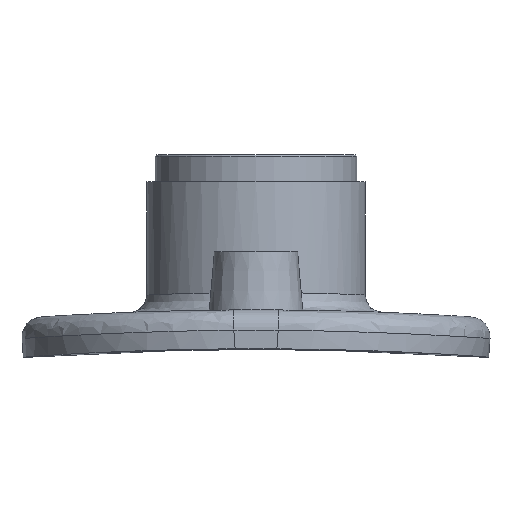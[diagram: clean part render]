
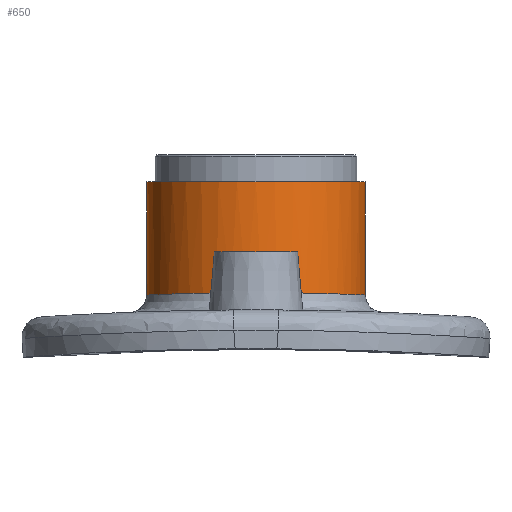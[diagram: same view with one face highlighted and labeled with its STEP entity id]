
A CAD part, top view. The second image highlights one B-rep face of the part: STEP entity #650.
In plain terms, the highlighted cylindrical face has radius 19.689 mm (diameter 39.378 mm), a full revolution.
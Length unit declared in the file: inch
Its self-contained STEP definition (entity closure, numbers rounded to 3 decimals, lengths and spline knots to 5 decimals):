
#29=B_SPLINE_CURVE_WITH_KNOTS('',3,(#1166,#1167,#1168,#1169,#1170,#1171,
#1172,#1173),.UNSPECIFIED.,.F.,.F.,(4,1,1,1,1,4),(-11.8675,-11.23174,
-11.01982,-10.17214,-9.60702,-8.9006),
 .UNSPECIFIED.);
#30=B_SPLINE_CURVE_WITH_KNOTS('',3,(#1174,#1175,#1176,#1177,#1178,#1179,
#1180,#1181,#1182,#1183,#1184,#1185,#1186,#1187,#1188,#1189),
 .UNSPECIFIED.,.F.,.F.,(4,1,1,1,1,1,1,1,1,1,1,1,1,4),(-8.9006,
-8.47678,-8.3355,-7.91167,-7.34655,
-6.78143,-5.65119,-5.08607,-4.52095,
-3.39071,-2.54304,-1.69536,-0.84768,
0.),.UNSPECIFIED.);
#72=LINE('',#1271,#100);
#73=LINE('',#1273,#101);
#100=VECTOR('',#823,0.77516);
#101=VECTOR('',#824,0.77516);
#127=CYLINDRICAL_SURFACE('',#719,0.77516);
#151=FACE_OUTER_BOUND('',#197,.T.);
#197=EDGE_LOOP('',(#477,#478,#479,#480,#481,#482,#483,#484));
#244=CIRCLE('',#720,0.77516);
#245=CIRCLE('',#721,0.77516);
#286=VERTEX_POINT('',#1142);
#288=VERTEX_POINT('',#1165);
#297=VERTEX_POINT('',#1267);
#298=VERTEX_POINT('',#1268);
#299=VERTEX_POINT('',#1272);
#355=EDGE_CURVE('',#286,#288,#29,.T.);
#356=EDGE_CURVE('',#288,#286,#30,.T.);
#366=EDGE_CURVE('',#297,#298,#244,.T.);
#367=EDGE_CURVE('',#298,#297,#245,.T.);
#368=EDGE_CURVE('',#298,#288,#72,.T.);
#369=EDGE_CURVE('',#299,#288,#73,.T.);
#477=ORIENTED_EDGE('',*,*,#366,.F.);
#478=ORIENTED_EDGE('',*,*,#367,.F.);
#479=ORIENTED_EDGE('',*,*,#368,.T.);
#480=ORIENTED_EDGE('',*,*,#355,.F.);
#481=ORIENTED_EDGE('',*,*,#356,.F.);
#482=ORIENTED_EDGE('',*,*,#369,.F.);
#483=ORIENTED_EDGE('',*,*,#369,.T.);
#484=ORIENTED_EDGE('',*,*,#368,.F.);
#650=ADVANCED_FACE('',(#151),#127,.T.);
#719=AXIS2_PLACEMENT_3D('',#1266,#817,#818);
#720=AXIS2_PLACEMENT_3D('',#1269,#819,#820);
#721=AXIS2_PLACEMENT_3D('',#1270,#821,#822);
#817=DIRECTION('center_axis',(0.,1.,0.));
#818=DIRECTION('ref_axis',(0.,0.,1.));
#819=DIRECTION('center_axis',(0.,1.,0.));
#820=DIRECTION('ref_axis',(1.,0.,0.));
#821=DIRECTION('center_axis',(0.,1.,0.));
#822=DIRECTION('ref_axis',(1.,0.,0.));
#823=DIRECTION('',(0.,-1.,0.));
#824=DIRECTION('',(0.,1.,0.));
#1142=CARTESIAN_POINT('',(-0.77516,24.27605,0.));
#1165=CARTESIAN_POINT('',(0.,24.29273,-0.77516));
#1166=CARTESIAN_POINT('Ctrl Pts',(-0.77516,24.27605,0.));
#1167=CARTESIAN_POINT('Ctrl Pts',(-0.77516,24.27605,-0.08698));
#1168=CARTESIAN_POINT('Ctrl Pts',(-0.75539,24.27692,-0.20286));
#1169=CARTESIAN_POINT('Ctrl Pts',(-0.6666,24.28048,-0.41762));
#1170=CARTESIAN_POINT('Ctrl Pts',(-0.5245,24.28557,-0.59548));
#1171=CARTESIAN_POINT('Ctrl Pts',(-0.27055,24.2913,-0.7424));
#1172=CARTESIAN_POINT('Ctrl Pts',(-0.09662,24.29268,
-0.77485));
#1173=CARTESIAN_POINT('Ctrl Pts',(0.00001,24.29271,-0.77501));
#1174=CARTESIAN_POINT('Ctrl Pts',(0.00001,24.29271,-0.77501));
#1175=CARTESIAN_POINT('Ctrl Pts',(0.05798,24.29272,-0.7751));
#1176=CARTESIAN_POINT('Ctrl Pts',(0.13527,24.29238,-0.76665));
#1177=CARTESIAN_POINT('Ctrl Pts',(0.26605,24.29089,-0.73138));
#1178=CARTESIAN_POINT('Ctrl Pts',(0.40876,24.28839,-0.6693));
#1179=CARTESIAN_POINT('Ctrl Pts',(0.57665,24.28375,-0.53515));
#1180=CARTESIAN_POINT('Ctrl Pts',(0.75339,24.27717,-0.27696));
#1181=CARTESIAN_POINT('Ctrl Pts',(0.80169,24.27486,0.04257));
#1182=CARTESIAN_POINT('Ctrl Pts',(0.70864,24.27889,0.34129));
#1183=CARTESIAN_POINT('Ctrl Pts',(0.53315,24.28538,0.60022));
#1184=CARTESIAN_POINT('Ctrl Pts',(0.21826,24.29303,0.78194));
#1185=CARTESIAN_POINT('Ctrl Pts',(-0.17849,24.29298,0.7814));
#1186=CARTESIAN_POINT('Ctrl Pts',(-0.49979,24.28652,0.62684));
#1187=CARTESIAN_POINT('Ctrl Pts',(-0.72228,24.27844,0.34781));
#1188=CARTESIAN_POINT('Ctrl Pts',(-0.77516,24.27605,0.11597));
#1189=CARTESIAN_POINT('Ctrl Pts',(-0.77516,24.27605,0.));
#1266=CARTESIAN_POINT('Origin',(0.,24.48513,0.));
#1267=CARTESIAN_POINT('',(0.,25.07853,0.77516));
#1268=CARTESIAN_POINT('',(0.,25.07853,-0.77516));
#1269=CARTESIAN_POINT('Origin',(0.,25.07853,0.));
#1270=CARTESIAN_POINT('Origin',(0.,25.07853,0.));
#1271=CARTESIAN_POINT('',(0.,24.48513,-0.77516));
#1272=CARTESIAN_POINT('',(0.,24.27544,-0.77516));
#1273=CARTESIAN_POINT('',(0.,24.48513,-0.77516));
